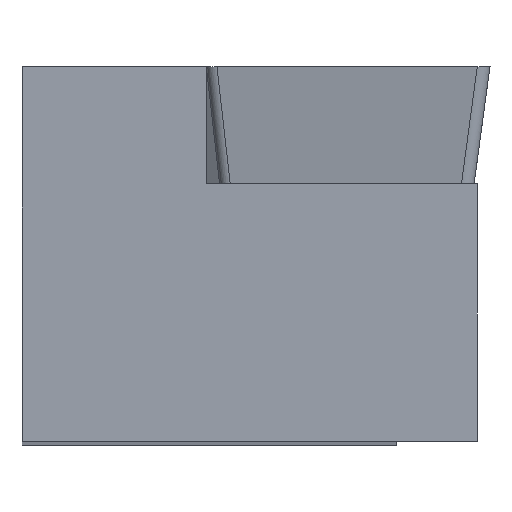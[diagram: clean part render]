
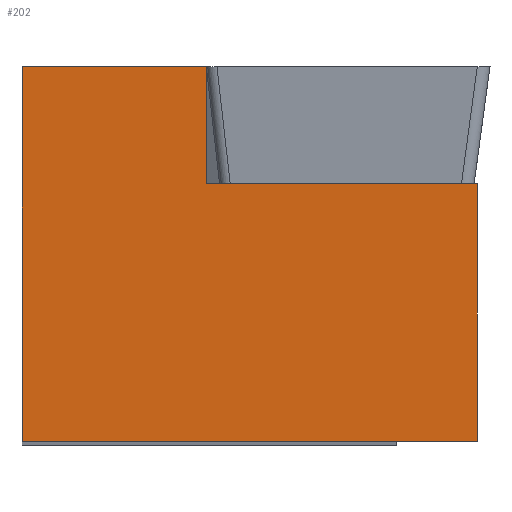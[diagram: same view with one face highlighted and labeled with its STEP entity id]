
A CAD part, top view. The second image highlights one B-rep face of the part: STEP entity #202.
In plain terms, the highlighted planar face has unit normal (-0.087, 0, 0.996).
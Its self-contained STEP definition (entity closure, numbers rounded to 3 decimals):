
#2 = VERTEX_POINT ( 'NONE', #745 ) ;
#5 = EDGE_CURVE ( 'NONE', #974, #848, #1003, .T. ) ;
#43 = VERTEX_POINT ( 'NONE', #1067 ) ;
#60 = CARTESIAN_POINT ( 'NONE',  ( -1.758, 4.28, -1.163 ) ) ;
#104 = DIRECTION ( 'NONE',  ( -0.996, 0., -0.087 ) ) ;
#105 = FACE_OUTER_BOUND ( 'NONE', #1009, .T. ) ;
#131 = DIRECTION ( 'NONE',  ( -0.996, 0., -0.087 ) ) ;
#160 = DIRECTION ( 'NONE',  ( 0.087, 0., -0.996 ) ) ;
#202 = ADVANCED_FACE ( 'NONE', ( #105 ), #671, .F. ) ;
#210 = CARTESIAN_POINT ( 'NONE',  ( 7.442, -6.35, -0.358 ) ) ;
#217 = ORIENTED_EDGE ( 'NONE', *, *, #5, .T. ) ;
#223 = CARTESIAN_POINT ( 'NONE',  ( -8., 6.35, -1.709 ) ) ;
#233 = CARTESIAN_POINT ( 'NONE',  ( -1.758, 6.35, -1.163 ) ) ;
#245 = AXIS2_PLACEMENT_3D ( 'NONE', #504, #160, #335 ) ;
#284 = VECTOR ( 'NONE', #742, 1000. ) ;
#287 = CARTESIAN_POINT ( 'NONE',  ( -12.409, -6.35, -2.095 ) ) ;
#335 = DIRECTION ( 'NONE',  ( -0.996, 0., -0.087 ) ) ;
#362 = VECTOR ( 'NONE', #131, 1000. ) ;
#396 = CARTESIAN_POINT ( 'NONE',  ( -12.409, 6.35, -2.095 ) ) ;
#405 = DIRECTION ( 'NONE',  ( 0., 1., 0. ) ) ;
#420 = EDGE_CURVE ( 'NONE', #848, #43, #633, .T. ) ;
#486 = DIRECTION ( 'NONE',  ( 0., -1., 0. ) ) ;
#492 = VECTOR ( 'NONE', #532, 1000. ) ;
#499 = CARTESIAN_POINT ( 'NONE',  ( 7.442, 2.38, -0.358 ) ) ;
#501 = EDGE_CURVE ( 'NONE', #974, #2, #910, .T. ) ;
#504 = CARTESIAN_POINT ( 'NONE',  ( -12.409, -6.35, -2.095 ) ) ;
#532 = DIRECTION ( 'NONE',  ( -0.996, 0., -0.087 ) ) ;
#572 = LINE ( 'NONE', #396, #362 ) ;
#597 = LINE ( 'NONE', #60, #284 ) ;
#611 = VECTOR ( 'NONE', #486, 1000. ) ;
#633 = LINE ( 'NONE', #861, #1076 ) ;
#653 = ORIENTED_EDGE ( 'NONE', *, *, #1015, .T. ) ;
#671 = PLANE ( 'NONE',  #245 ) ;
#682 = ORIENTED_EDGE ( 'NONE', *, *, #765, .F. ) ;
#711 = ORIENTED_EDGE ( 'NONE', *, *, #935, .T. ) ;
#742 = DIRECTION ( 'NONE',  ( 0., -1., 0. ) ) ;
#745 = CARTESIAN_POINT ( 'NONE',  ( -8., -6.35, -1.709 ) ) ;
#765 = EDGE_CURVE ( 'NONE', #892, #43, #597, .T. ) ;
#778 = VECTOR ( 'NONE', #405, 1000. ) ;
#809 = CARTESIAN_POINT ( 'NONE',  ( -8., 6.35, -1.709 ) ) ;
#810 = ORIENTED_EDGE ( 'NONE', *, *, #420, .T. ) ;
#843 = LINE ( 'NONE', #809, #611 ) ;
#848 = VERTEX_POINT ( 'NONE', #499 ) ;
#861 = CARTESIAN_POINT ( 'NONE',  ( -3.356, 2.38, -1.303 ) ) ;
#892 = VERTEX_POINT ( 'NONE', #233 ) ;
#910 = LINE ( 'NONE', #287, #492 ) ;
#916 = VERTEX_POINT ( 'NONE', #223 ) ;
#935 = EDGE_CURVE ( 'NONE', #916, #2, #843, .T. ) ;
#941 = ORIENTED_EDGE ( 'NONE', *, *, #501, .F. ) ;
#974 = VERTEX_POINT ( 'NONE', #210 ) ;
#992 = CARTESIAN_POINT ( 'NONE',  ( 7.442, -6.35, -0.358 ) ) ;
#1003 = LINE ( 'NONE', #992, #778 ) ;
#1009 = EDGE_LOOP ( 'NONE', ( #711, #941, #217, #810, #682, #653 ) ) ;
#1015 = EDGE_CURVE ( 'NONE', #892, #916, #572, .T. ) ;
#1067 = CARTESIAN_POINT ( 'NONE',  ( -1.758, 2.38, -1.163 ) ) ;
#1076 = VECTOR ( 'NONE', #104, 1000. ) ;
